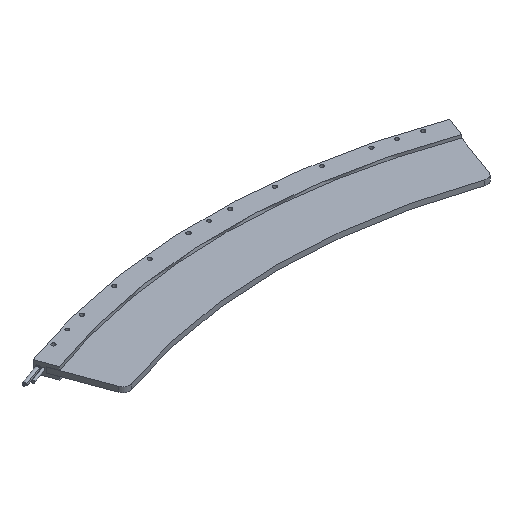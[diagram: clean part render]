
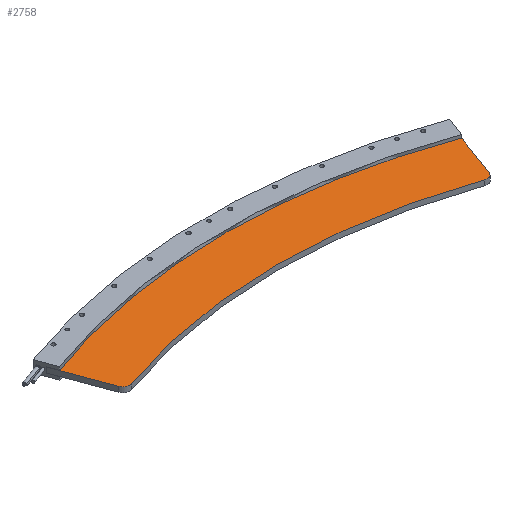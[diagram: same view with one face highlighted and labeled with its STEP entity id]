
A CAD part, isometric view. The second image highlights one B-rep face of the part: STEP entity #2758.
In plain terms, the highlighted planar face has unit normal (0, 0, 1).
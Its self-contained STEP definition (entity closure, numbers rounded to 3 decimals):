
#313 = DIRECTION ( 'NONE',  ( 0.345, 0.938, 0. ) ) ;
#462 = CARTESIAN_POINT ( 'NONE',  ( 270.864, 336.063, 17.561 ) ) ;
#487 = FACE_OUTER_BOUND ( 'NONE', #1094, .T. ) ;
#542 = DIRECTION ( 'NONE',  ( 1., 0., 0. ) ) ;
#551 = PLANE ( 'NONE',  #2634 ) ;
#569 = DIRECTION ( 'NONE',  ( 1., 0., 0. ) ) ;
#627 = CARTESIAN_POINT ( 'NONE',  ( -258.146, 330.088, 17.561 ) ) ;
#654 = CARTESIAN_POINT ( 'NONE',  ( -299.27, 413.267, 17.561 ) ) ;
#727 = CARTESIAN_POINT ( 'NONE',  ( 299.27, 413.267, 17.561 ) ) ;
#808 = AXIS2_PLACEMENT_3D ( 'NONE', #1376, #2515, #1116 ) ;
#916 = EDGE_CURVE ( 'NONE', #3228, #3218, #1676, .T. ) ;
#940 = EDGE_CURVE ( 'NONE', #2939, #2183, #3220, .T. ) ;
#1094 = EDGE_LOOP ( 'NONE', ( #3542, #1507, #1791, #3631, #1534, #1325 ) ) ;
#1116 = DIRECTION ( 'NONE',  ( 1., 0., 0. ) ) ;
#1122 = CARTESIAN_POINT ( 'NONE',  ( 0., -400.125, 17.561 ) ) ;
#1128 = CARTESIAN_POINT ( 'NONE',  ( 0., -400.125, 17.561 ) ) ;
#1325 = ORIENTED_EDGE ( 'NONE', *, *, #940, .T. ) ;
#1376 = CARTESIAN_POINT ( 'NONE',  ( 0., -400.125, 17.561 ) ) ;
#1471 = AXIS2_PLACEMENT_3D ( 'NONE', #2620, #2658, #1753 ) ;
#1507 = ORIENTED_EDGE ( 'NONE', *, *, #2094, .T. ) ;
#1534 = ORIENTED_EDGE ( 'NONE', *, *, #1983, .T. ) ;
#1577 = DIRECTION ( 'NONE',  ( 0., 0., 1. ) ) ;
#1628 = AXIS2_PLACEMENT_3D ( 'NONE', #2363, #2063, #1775 ) ;
#1670 = AXIS2_PLACEMENT_3D ( 'NONE', #1122, #2504, #569 ) ;
#1676 = LINE ( 'NONE', #3611, #2932 ) ;
#1753 = DIRECTION ( 'NONE',  ( 1., 0., 0. ) ) ;
#1761 = DIRECTION ( 'NONE',  ( 0.345, -0.938, 0. ) ) ;
#1775 = DIRECTION ( 'NONE',  ( 1., 0., 0. ) ) ;
#1791 = ORIENTED_EDGE ( 'NONE', *, *, #916, .T. ) ;
#1980 = VECTOR ( 'NONE', #1761, 1000. ) ;
#1983 = EDGE_CURVE ( 'NONE', #2373, #2939, #2323, .T. ) ;
#2046 = EDGE_CURVE ( 'NONE', #2183, #2392, #2465, .T. ) ;
#2063 = DIRECTION ( 'NONE',  ( 0., 0., 1. ) ) ;
#2094 = EDGE_CURVE ( 'NONE', #2392, #3228, #3078, .T. ) ;
#2183 = VERTEX_POINT ( 'NONE', #627 ) ;
#2323 = LINE ( 'NONE', #654, #1980 ) ;
#2363 = CARTESIAN_POINT ( 'NONE',  ( -261.479, 339.516, 17.561 ) ) ;
#2373 = VERTEX_POINT ( 'NONE', #2453 ) ;
#2392 = VERTEX_POINT ( 'NONE', #3041 ) ;
#2451 = CIRCLE ( 'NONE', #1670, 866.7 ) ;
#2453 = CARTESIAN_POINT ( 'NONE',  ( -299.27, 413.267, 17.561 ) ) ;
#2465 = CIRCLE ( 'NONE', #808, 774.5 ) ;
#2504 = DIRECTION ( 'NONE',  ( 0., 0., 1. ) ) ;
#2515 = DIRECTION ( 'NONE',  ( 0., 0., -1. ) ) ;
#2620 = CARTESIAN_POINT ( 'NONE',  ( 261.479, 339.516, 17.561 ) ) ;
#2634 = AXIS2_PLACEMENT_3D ( 'NONE', #1128, #1577, #542 ) ;
#2658 = DIRECTION ( 'NONE',  ( 0., 0., 1. ) ) ;
#2758 = ADVANCED_FACE ( 'NONE', ( #487 ), #551, .T. ) ;
#2932 = VECTOR ( 'NONE', #313, 1000. ) ;
#2939 = VERTEX_POINT ( 'NONE', #3059 ) ;
#2981 = EDGE_CURVE ( 'NONE', #3218, #2373, #2451, .T. ) ;
#3041 = CARTESIAN_POINT ( 'NONE',  ( 258.146, 330.088, 17.561 ) ) ;
#3059 = CARTESIAN_POINT ( 'NONE',  ( -270.864, 336.063, 17.561 ) ) ;
#3078 = CIRCLE ( 'NONE', #1471, 10. ) ;
#3218 = VERTEX_POINT ( 'NONE', #727 ) ;
#3220 = CIRCLE ( 'NONE', #1628, 10. ) ;
#3228 = VERTEX_POINT ( 'NONE', #462 ) ;
#3542 = ORIENTED_EDGE ( 'NONE', *, *, #2046, .T. ) ;
#3611 = CARTESIAN_POINT ( 'NONE',  ( 299.27, 413.267, 17.561 ) ) ;
#3631 = ORIENTED_EDGE ( 'NONE', *, *, #2981, .T. ) ;
